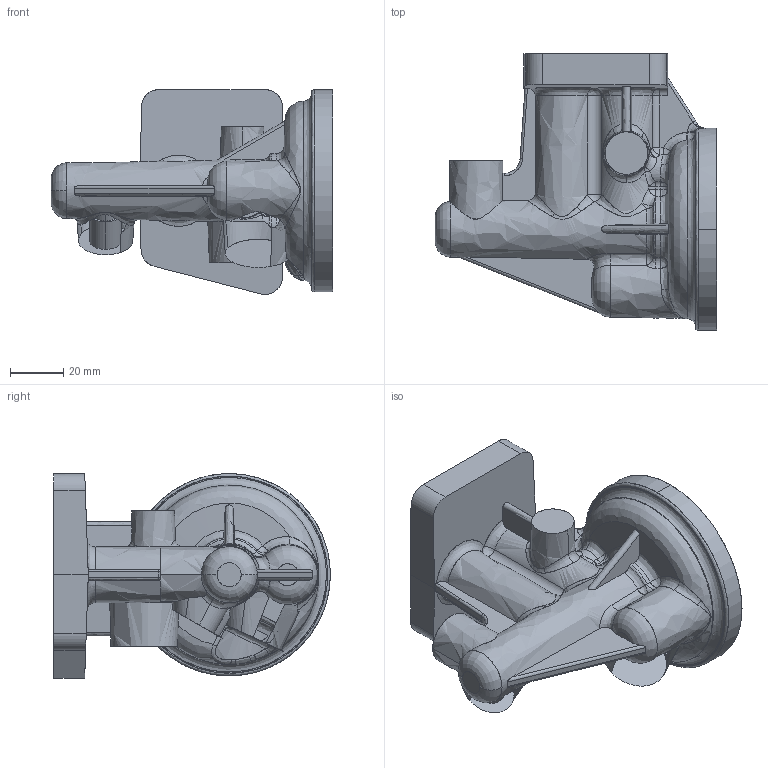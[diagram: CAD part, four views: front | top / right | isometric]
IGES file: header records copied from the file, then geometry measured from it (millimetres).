
Start section: VISI-Series Layer Mapping Iges    VISI-Series  0      IGES_LAYER_0  1      WARNINGS
Global section: file name: C:\My Sample\Pump_Casting.igs; native system: VISI-Series Rel. 14.0; preprocessor: 2.0; author: Administrator; organization: Unknown; date: 20070715.204550; units: millimetre
Bounding box: 106 x 104.04 x 77.04 mm (x, y, z)
Surface area: 43633.6 mm2 (no closed solid volume)
Topology: 0 solids, 0 shells, 237 faces, 2430 edges, 2450 vertices
Faces by surface type: bspline 237
